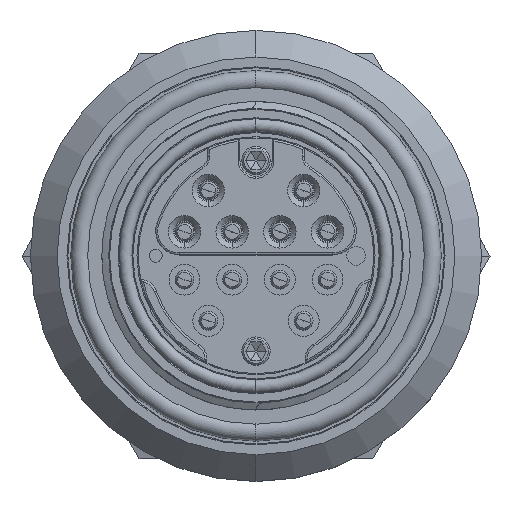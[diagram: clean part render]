
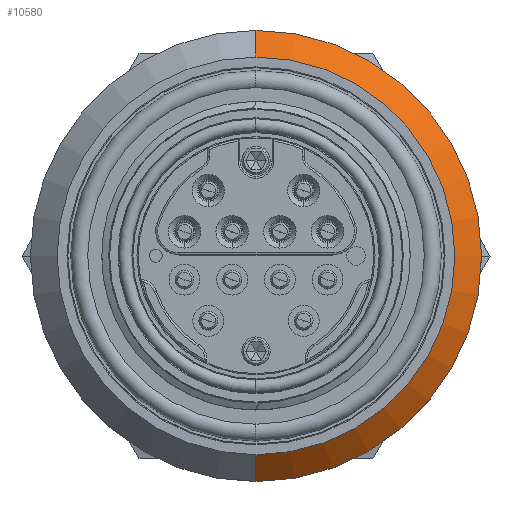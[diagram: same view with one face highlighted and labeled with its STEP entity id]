
A CAD part, top view. The second image highlights one B-rep face of the part: STEP entity #10580.
In plain terms, the highlighted conical face has half-angle 45 degrees and reference radius 30.035 mm.
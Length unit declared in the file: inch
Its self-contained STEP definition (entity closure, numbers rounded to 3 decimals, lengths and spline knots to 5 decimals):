
#108 = DIRECTION ( 'NONE',  ( 0., 0.707, -0.707 ) ) ;
#1108 = CARTESIAN_POINT ( 'NONE',  ( 0., -1.0425, -0.558 ) ) ;
#1722 = VECTOR ( 'NONE', #108, 39.37008 ) ;
#1859 = CIRCLE ( 'NONE', #23419, 1.1825 ) ;
#3008 = EDGE_CURVE ( 'NONE', #28188, #17842, #1859, .T. ) ;
#3070 = DIRECTION ( 'NONE',  ( 0., 1., 0. ) ) ;
#4123 = CARTESIAN_POINT ( 'NONE',  ( 0., 1.1825, -0.698 ) ) ;
#4844 = CARTESIAN_POINT ( 'NONE',  ( 0., -1.1825, -0.698 ) ) ;
#4999 = CARTESIAN_POINT ( 'NONE',  ( 0., 1.0425, -0.558 ) ) ;
#5722 = ORIENTED_EDGE ( 'NONE', *, *, #21705, .T. ) ;
#6204 = DIRECTION ( 'NONE',  ( 0., 0., -1. ) ) ;
#7902 = CIRCLE ( 'NONE', #25150, 1.0425 ) ;
#9337 = DIRECTION ( 'NONE',  ( 0., -0.707, -0.707 ) ) ;
#9804 = EDGE_LOOP ( 'NONE', ( #5722, #22747, #14584, #19214 ) ) ;
#10580 = ADVANCED_FACE ( 'NONE', ( #26011 ), #24121, .T. ) ;
#10785 = EDGE_CURVE ( 'NONE', #16801, #17842, #25392, .T. ) ;
#11012 = CARTESIAN_POINT ( 'NONE',  ( 0., 0., -0.698 ) ) ;
#11464 = LINE ( 'NONE', #4123, #1722 ) ;
#14455 = CARTESIAN_POINT ( 'NONE',  ( 0., 0., -0.698 ) ) ;
#14584 = ORIENTED_EDGE ( 'NONE', *, *, #3008, .F. ) ;
#15350 = DIRECTION ( 'NONE',  ( 0., 1., 0. ) ) ;
#16801 = VERTEX_POINT ( 'NONE', #1108 ) ;
#17292 = DIRECTION ( 'NONE',  ( 0., 0., -1. ) ) ;
#17842 = VERTEX_POINT ( 'NONE', #24212 ) ;
#19162 = CARTESIAN_POINT ( 'NONE',  ( 0., 0., -0.558 ) ) ;
#19214 = ORIENTED_EDGE ( 'NONE', *, *, #23008, .F. ) ;
#21705 = EDGE_CURVE ( 'NONE', #26374, #16801, #7902, .T. ) ;
#21709 = AXIS2_PLACEMENT_3D ( 'NONE', #14455, #17292, #3070 ) ;
#22747 = ORIENTED_EDGE ( 'NONE', *, *, #10785, .T. ) ;
#23008 = EDGE_CURVE ( 'NONE', #26374, #28188, #11464, .T. ) ;
#23419 = AXIS2_PLACEMENT_3D ( 'NONE', #11012, #6204, #15350 ) ;
#23695 = VECTOR ( 'NONE', #9337, 39.37008 ) ;
#24121 = CONICAL_SURFACE ( 'NONE', #21709, 1.1825, 0.785 ) ;
#24212 = CARTESIAN_POINT ( 'NONE',  ( 0., -1.1825, -0.698 ) ) ;
#24448 = CARTESIAN_POINT ( 'NONE',  ( 0., 1.1825, -0.698 ) ) ;
#25150 = AXIS2_PLACEMENT_3D ( 'NONE', #19162, #28164, #28309 ) ;
#25392 = LINE ( 'NONE', #4844, #23695 ) ;
#26011 = FACE_OUTER_BOUND ( 'NONE', #9804, .T. ) ;
#26374 = VERTEX_POINT ( 'NONE', #4999 ) ;
#28164 = DIRECTION ( 'NONE',  ( 0., 0., -1. ) ) ;
#28188 = VERTEX_POINT ( 'NONE', #24448 ) ;
#28309 = DIRECTION ( 'NONE',  ( 0., 1., 0. ) ) ;
